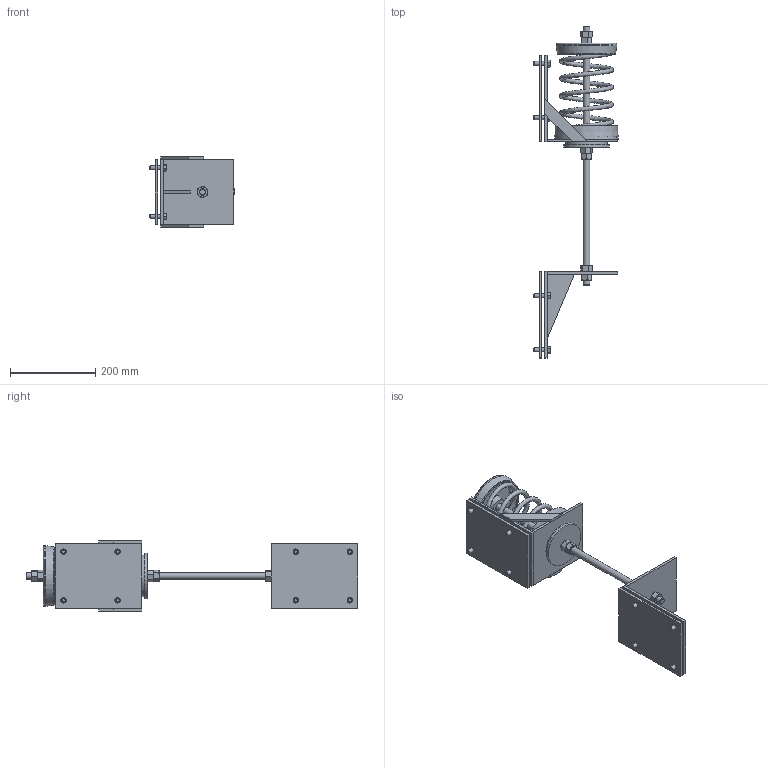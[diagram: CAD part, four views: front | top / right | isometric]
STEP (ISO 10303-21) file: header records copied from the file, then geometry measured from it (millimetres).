
FILE_DESCRIPTION((''),'2;1');
FILE_NAME('C:\2012_Work\Designs\WBI, WBD\153\WBD-153_THRUST-RESTRAINT.stp','2013-10-22T14:17:57',('KShiels'),(''),'Autodesk Inventor 2012','Autodesk Inventor 2012','');
FILE_SCHEMA(('AUTOMOTIVE_DESIGN { 1 0 10303 214 1 1 1 1 }'));
Length unit declared in the file: inch
Products named in the file (21): WBD-153_THRUST-RESTRAINT; A-17060-1_WBD-ANGLE; A-17063_FIXED-BRACKET; A-17063_B_FIXED-BRACKET; A-17063_A_FIXED-BRACKET; A-17063_C_FIXED-BRACKET; ANSI B18.2.2 - 5_8 - 11(2)_WBI, WBD-153; A-17064_MOUNTING-PLATE; ANSI_ASME B18.2.1 - 3_8-16 UNC - 1.25(2)_WBI, WBD-BOLT; A-17060-1_WBD-153-SPRING-ASSEMBLY; A-17062_SPRING-BRACKET; A-17062_B_SPRING-BRACKET; A-17062_A_SPRING-BRACKET; A-17062_C_SPRING-BRACKET; WBI, WBD-153_WASHER; A-15955-2R LDS HANGER CUP 5in_WBD, WBI-153; A-15955-2R HANGER CUP 5in_WBD, WBI-153; A-15955-2R WASHER 5in_WBD, WBI-153; A-12867-2 SPRING TOP CASTING WBD, WBI-153; WBI, WBD-153_SPRING; THREADED-ROD_0.625-11UNC, 24in-LONG
Assembly tree (34 placements, depth 4):
  WBD-153_THRUST-RESTRAINT
    A-17060-1_WBD-ANGLE
      A-17063_FIXED-BRACKET
        A-17063_B_FIXED-BRACKET
        A-17063_A_FIXED-BRACKET
        A-17063_C_FIXED-BRACKET
      ANSI B18.2.2 - 5_8 - 11(2)_WBI, WBD-153  x2
      A-17064_MOUNTING-PLATE
      ANSI_ASME B18.2.1 - 3_8-16 UNC - 1.25(2)_WBI, WBD-BOLT  x4
    A-17060-1_WBD-153-SPRING-ASSEMBLY
      A-17062_SPRING-BRACKET
        A-17062_B_SPRING-BRACKET
        A-17062_A_SPRING-BRACKET
        A-17062_C_SPRING-BRACKET  x2
      WBI, WBD-153_WASHER
      A-15955-2R LDS HANGER CUP 5in_WBD, WBI-153
        A-15955-2R HANGER CUP 5in_WBD, WBI-153
        A-15955-2R WASHER 5in_WBD, WBI-153
      A-12867-2 SPRING TOP CASTING WBD, WBI-153
      WBI, WBD-153_SPRING
      ANSI B18.2.2 - 5_8 - 11(2)_WBI, WBD-153  x4
      A-17064_MOUNTING-PLATE
      ANSI_ASME B18.2.1 - 3_8-16 UNC - 1.25(2)_WBI, WBD-BOLT  x4
    THREADED-ROD_0.625-11UNC, 24in-LONG
Bounding box: 198.32 x 779.86 x 165.1 mm (x, y, z)
Volume: 1906952.1 mm3; surface area: 681057.4 mm2
Topology: 29 solids, 29 shells, 1020 faces, 2468 edges, 1581 vertices
Faces by surface type: plane 625, bspline 170, cone 153, cylinder 62, torus 10
Full cylindrical faces by diameter (mm): 9.525 x8, 9.855 x8, 12.7 x16, 13.386 x6, 14.275 x8, 15.875 x1, 17.463 x1, 19.05 x1, 19.447 x1, 88.9 x1, 93.663 x1, 95.25 x2, 98.425 x2, 107.95 x1, 125.413 x1, 126.965 x1, 142.84 x1, 146.05 x2
Entity records: 24933 total; most frequent: CARTESIAN_POINT 8614, ORIENTED_EDGE 3452, DIRECTION 2621, EDGE_CURVE 1726, VECTOR 1247, LINE 1247, VERTEX_POINT 1168, EDGE_LOOP 850
